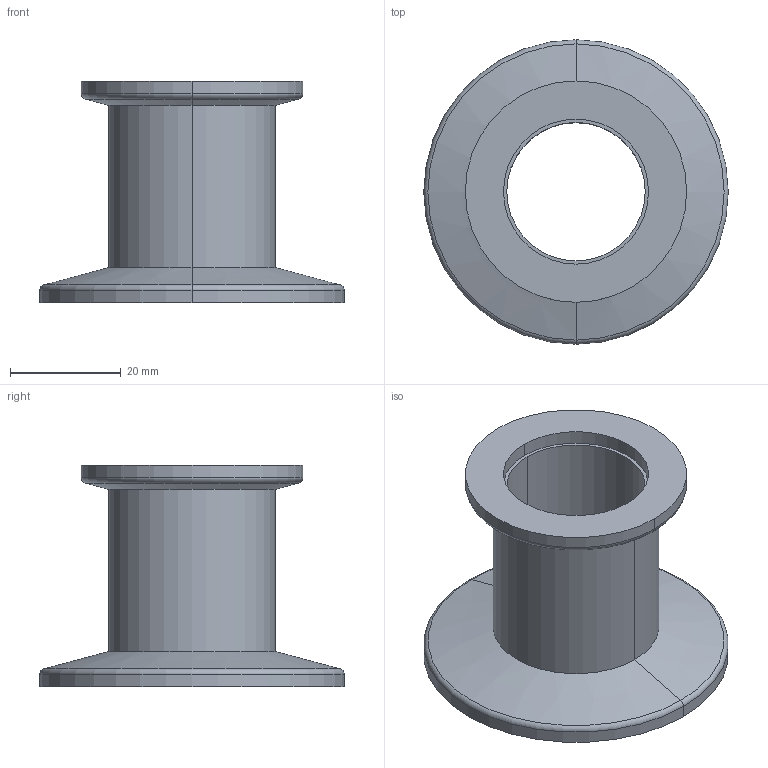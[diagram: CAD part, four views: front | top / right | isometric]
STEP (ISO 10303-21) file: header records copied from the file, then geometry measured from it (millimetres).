
FILE_DESCRIPTION (( 'STEP AP214' ), '1' );
FILE_NAME ('W3RS40-25.STEP', '2019-12-04T08:29:39', ( '' ), ( '' ), 'SwSTEP 2.0', 'SolidWorks 2018', '' );
FILE_SCHEMA (( 'AUTOMOTIVE_DESIGN' ));
Length unit declared in the file: millimetre
Products named in the file (1): W3RS40-25
Bounding box: 55 x 55 x 40 mm (x, y, z)
Volume: 15907.5 mm3; surface area: 11815.7 mm2
Topology: 1 solids, 1 shells, 24 faces, 48 edges, 28 vertices
Faces by surface type: cylinder 12, torus 4, cone 4, plane 4
Entity records: 666 total; most frequent: DIRECTION 130, CARTESIAN_POINT 101, ORIENTED_EDGE 96, AXIS2_PLACEMENT_3D 57, EDGE_CURVE 48, CIRCLE 32, EDGE_LOOP 28, VERTEX_POINT 28
